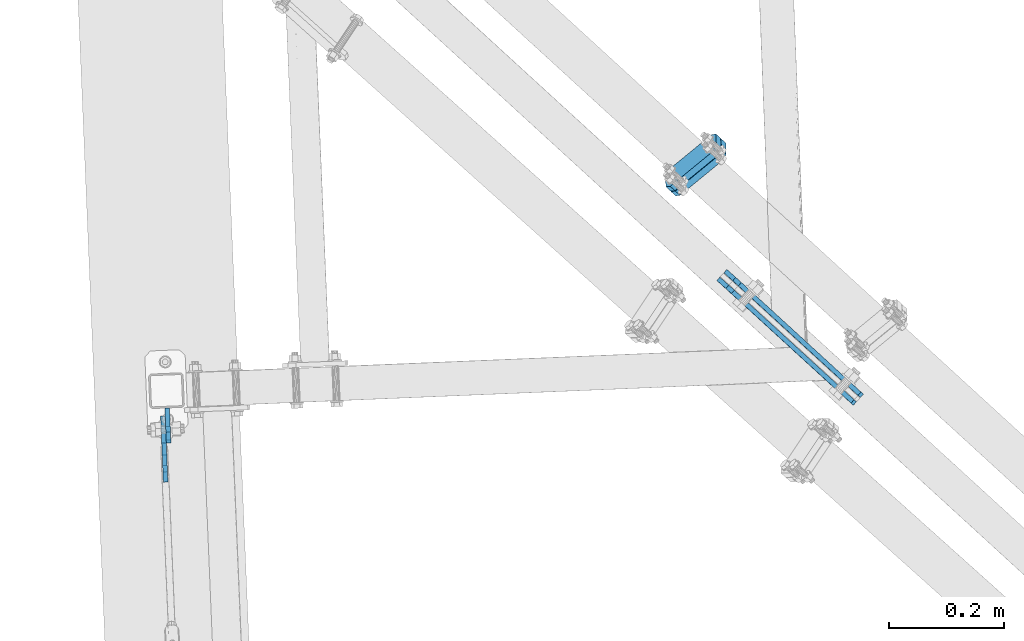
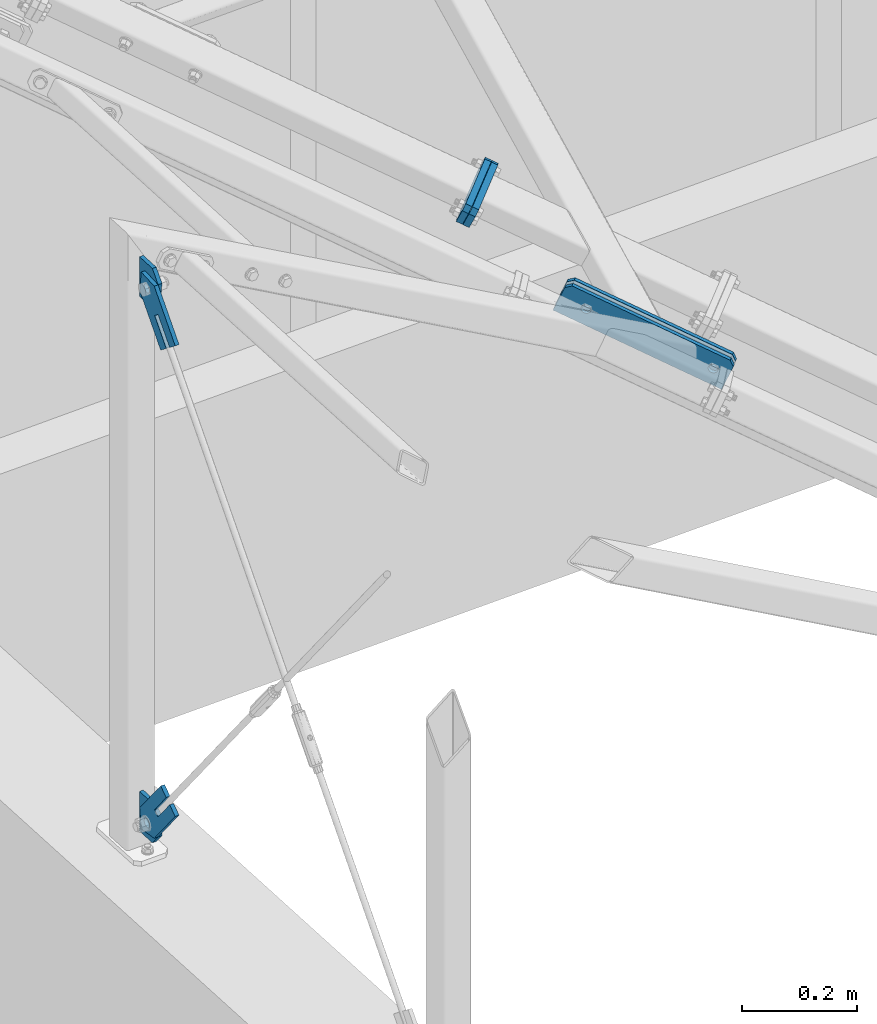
# One storey, part 55 of 288: 8 plates, 36 openings.
"""IFC2X3 building model written with IfcOpenShell, lengths in millimetres."""

from ifc_helpers import new_model, entity, si_unit, converted_unit, point, frame, frame_2d, origin, origin_with_axes, origin_2d_with_axis, place, context, project, spatial, polyline, circle_curve, line_curve, trimmed, segment, composite_curve, circle, outline, extrude, material, layer, layer_set, element, save


model = new_model("IFC2X3")

# Units and contexts
model_context = context("Model", 3, precision=1e-09, world=origin_with_axes())
ifc_project = project(units=[si_unit("LENGTHUNIT", "METRE", prefix="MILLI"), si_unit("AREAUNIT", "SQUARE_METRE"), si_unit("VOLUMEUNIT", "CUBIC_METRE"), converted_unit("PLANEANGLEUNIT", "DEGREE", entity("IfcPlaneAngleMeasure", 0.01745329), si_unit("PLANEANGLEUNIT", "RADIAN"), dimensions=[0, 0, 0, 0, 0, 0, 0])], contexts=[model_context])

# Site, building, storey
site_placement = place(None, origin_with_axes())
site = spatial("IfcSite", under=ifc_project, at=site_placement, Name="Remont ?wietlik?w nad MC w NCPP w Opolu", CompositionType="ELEMENT")
building_placement = place(site_placement, origin_with_axes())
building = spatial("IfcBuilding", under=site, at=building_placement, Name="Konstrukcja 1", CompositionType="ELEMENT")
storey_placement = place(building_placement, origin_with_axes())
storey = spatial("IfcBuildingStorey", under=building, at=storey_placement, Name="Default Storey", CompositionType="ELEMENT", Elevation=0.0)

# Plate, openings
ifc_material = material(Name="S235")
ifc_layer_1 = layer(ifc_material, 8.0)
ifc_layer_set_1 = layer_set([ifc_layer_1], Name="S235")
plate_1_placement = place(None, frame((470.808652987, 14357.629796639, 552.400133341), z_axis=(0.67400264, 0.738719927, -0.003648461), x_axis=(-0.682725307, 0.62478468, 0.378853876)))
plate_1 = element("IfcPlate", 1, at=plate_1_placement, inside=storey, material=ifc_layer_set_1, Name="Plate", ObjectType="Plate", context=model_context, shape_type="SweptSolid", body=[
    extrude(outline(polyline([(9.338628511, 0.0), (333.668192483, 0.0), (333.668192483, 65.0), (9.338628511, 65.0), (9.338628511, 0.0)])), origin_with_axes(), (0.0, 0.0, 1.0), 8.0),
])
opening_1_placement = place(plate_1_placement, frame((0.0, 0.0, -0.01), z_axis=(0.0, 0.0, 1.0), x_axis=(1.0, 0.0, 0.0)))
element("IfcOpeningElement", 2, at=opening_1_placement, cuts=plate_1, ObjectType="Opening", context=model_context, shape_type="SweptSolid", body=[
    extrude(outline(composite_curve([segment(trimmed(line_curve((333.668192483, 65.0), (-1.0, 0.0), 10.0), [point((333.668192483, 65.0))], [point((323.668192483, 65.0))], True, "CARTESIAN"), True, "CONTINUOUS"), segment(trimmed(circle_curve(frame_2d((323.668192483, 55.0), x_axis=(-1.0, 0.0)), 10.0), [point((323.668192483, 65.0))], [point((333.668192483, 55.0))], False, "CARTESIAN"), True, "CONTINUOUS"), segment(trimmed(line_curve((333.668192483, 55.0), (0.0, 1.0), 10.0), [point((333.668192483, 55.0))], [point((333.668192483, 65.0))], True, "CARTESIAN"), True, "CONTINUOUS")], self_intersect=False)), origin(), (0.0, 0.0, 1.0), 8.02),
])
opening_2_placement = place(plate_1_placement, frame((0.0, 0.0, -0.01), z_axis=(0.0, 0.0, 1.0), x_axis=(1.0, 0.0, 0.0)))
element("IfcOpeningElement", 3, at=opening_2_placement, cuts=plate_1, ObjectType="Opening", context=model_context, shape_type="SweptSolid", body=[
    extrude(outline(composite_curve([segment(trimmed(line_curve((9.338628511, 65.0), (0.0, -1.0), 10.0), [point((9.338628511, 65.0))], [point((9.338628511, 55.0))], True, "CARTESIAN"), True, "CONTINUOUS"), segment(trimmed(circle_curve(frame_2d((19.338628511, 55.0), x_axis=(-1.0, 0.0)), 10.0), [point((9.338628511, 55.0))], [point((19.338628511, 65.0))], False, "CARTESIAN"), True, "CONTINUOUS"), segment(trimmed(line_curve((19.338628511, 65.0), (-1.0, 0.0), 10.0), [point((19.338628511, 65.0))], [point((9.338628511, 65.0))], True, "CARTESIAN"), True, "CONTINUOUS")], self_intersect=False)), origin(), (0.0, 0.0, 1.0), 8.02),
])
opening_3_placement = place(plate_1_placement, frame((39.338628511, 32.955059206, 8.5), z_axis=(0.0, 0.0, -1.0), x_axis=(0.0, 1.0, 0.0)))
element("IfcOpeningElement", 4, at=opening_3_placement, cuts=plate_1, ObjectType="Opening", context=model_context, shape_type="SweptSolid", body=[
    extrude(circle(Radius=9.001, at=origin_2d_with_axis()), origin(), (0.0, 0.0, 1.0), 9.0),
])
opening_4_placement = place(plate_1_placement, frame((283.668192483, 32.475001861, 8.5), z_axis=(0.0, 0.0, -1.0), x_axis=(0.0, 1.0, 0.0)))
element("IfcOpeningElement", 5, at=opening_4_placement, cuts=plate_1, ObjectType="Opening", context=model_context, shape_type="SweptSolid", body=[
    extrude(circle(Radius=9.001, at=origin_2d_with_axis()), origin(), (0.0, 0.0, 1.0), 9.0),
])

plate_2_placement = place(None, frame((458.676605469, 14344.332837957, 552.46580564), z_axis=(0.67400264, 0.738719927, -0.003648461), x_axis=(-0.682725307, 0.62478468, 0.378853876)))
plate_2 = element("IfcPlate", 6, at=plate_2_placement, inside=storey, material=ifc_layer_set_1, Name="Plate", ObjectType="Plate", context=model_context, shape_type="SweptSolid", body=[
    extrude(outline(polyline([(9.338628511, 0.0), (333.668192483, 0.0), (333.668192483, 65.0), (9.338628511, 65.0), (9.338628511, 0.0)])), origin_with_axes(), (0.0, 0.0, 1.0), 8.0),
])
opening_5_placement = place(plate_2_placement, frame((0.0, 0.0, -0.01), z_axis=(0.0, 0.0, 1.0), x_axis=(1.0, 0.0, 0.0)))
element("IfcOpeningElement", 7, at=opening_5_placement, cuts=plate_2, ObjectType="Opening", context=model_context, shape_type="SweptSolid", body=[
    extrude(outline(composite_curve([segment(trimmed(line_curve((333.668192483, 65.0), (-1.0, 0.0), 10.0), [point((333.668192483, 65.0))], [point((323.668192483, 65.0))], True, "CARTESIAN"), True, "CONTINUOUS"), segment(trimmed(circle_curve(frame_2d((323.668192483, 55.0), x_axis=(-1.0, 0.0)), 10.0), [point((323.668192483, 65.0))], [point((333.668192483, 55.0))], False, "CARTESIAN"), True, "CONTINUOUS"), segment(trimmed(line_curve((333.668192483, 55.0), (0.0, 1.0), 10.0), [point((333.668192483, 55.0))], [point((333.668192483, 65.0))], True, "CARTESIAN"), True, "CONTINUOUS")], self_intersect=False)), origin(), (0.0, 0.0, 1.0), 8.02),
])
opening_6_placement = place(plate_2_placement, frame((0.0, 0.0, -0.01), z_axis=(0.0, 0.0, 1.0), x_axis=(1.0, 0.0, 0.0)))
element("IfcOpeningElement", 8, at=opening_6_placement, cuts=plate_2, ObjectType="Opening", context=model_context, shape_type="SweptSolid", body=[
    extrude(outline(composite_curve([segment(trimmed(line_curve((9.338628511, 65.0), (0.0, -1.0), 10.0), [point((9.338628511, 65.0))], [point((9.338628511, 55.0))], True, "CARTESIAN"), True, "CONTINUOUS"), segment(trimmed(circle_curve(frame_2d((19.338628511, 55.0), x_axis=(-1.0, 0.0)), 10.0), [point((9.338628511, 55.0))], [point((19.338628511, 65.0))], False, "CARTESIAN"), True, "CONTINUOUS"), segment(trimmed(line_curve((19.338628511, 65.0), (-1.0, 0.0), 10.0), [point((19.338628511, 65.0))], [point((9.338628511, 65.0))], True, "CARTESIAN"), True, "CONTINUOUS")], self_intersect=False)), origin(), (0.0, 0.0, 1.0), 8.02),
])
opening_7_placement = place(plate_2_placement, frame((39.338628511, 32.955059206, 8.5), z_axis=(0.0, 0.0, -1.0), x_axis=(0.0, 1.0, 0.0)))
element("IfcOpeningElement", 9, at=opening_7_placement, cuts=plate_2, ObjectType="Opening", context=model_context, shape_type="SweptSolid", body=[
    extrude(circle(Radius=9.001, at=origin_2d_with_axis()), origin(), (0.0, 0.0, 1.0), 9.0),
])
opening_8_placement = place(plate_2_placement, frame((283.668192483, 32.475001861, 8.5), z_axis=(0.0, 0.0, -1.0), x_axis=(0.0, 1.0, 0.0)))
element("IfcOpeningElement", 10, at=opening_8_placement, cuts=plate_2, ObjectType="Opening", context=model_context, shape_type="SweptSolid", body=[
    extrude(circle(Radius=9.001, at=origin_2d_with_axis()), origin(), (0.0, 0.0, 1.0), 9.0),
])

ifc_layer_2 = layer(ifc_material, 12.0)
ifc_layer_set_2 = layer_set([ifc_layer_2], Name="S235")
plate_3_placement = place(None, frame((238.585710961, 14774.471554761, 865.912405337), z_axis=(-0.683038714, 0.625065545, 0.37782427), x_axis=(-0.019762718, 0.501290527, -0.865053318)))
plate_3 = element("IfcPlate", 11, at=plate_3_placement, inside=storey, material=ifc_layer_set_2, Name="Endplate#1", ObjectType="Endplate#1", context=model_context, shape_type="SweptSolid", body=[
    extrude(outline(polyline([(0.0, 0.0), (60.0, 0.0), (60.0, 120.0), (0.0, 120.0), (0.0, 0.0)])), origin_with_axes(), (0.0, 0.0, 1.0), 12.0),
])
opening_9_placement = place(plate_3_placement, frame((45.0, 60.0, 12.5), z_axis=(0.0, 0.0, -1.0), x_axis=(1.0, 0.0, 0.0)))
element("IfcOpeningElement", 12, at=opening_9_placement, cuts=plate_3, ObjectType="Opening", context=model_context, shape_type="SweptSolid", body=[
    extrude(circle(Radius=6.001, at=frame_2d((0.0, 45.0), x_axis=(1.0, 0.0))), origin(), (0.0, 0.0, 1.0), 13.0),
])
opening_10_placement = place(plate_3_placement, frame((45.0, 60.0, 12.5), z_axis=(0.0, 0.0, -1.0), x_axis=(1.0, 0.0, 0.0)))
element("IfcOpeningElement", 13, at=opening_10_placement, cuts=plate_3, ObjectType="Opening", context=model_context, shape_type="SweptSolid", body=[
    extrude(circle(Radius=6.001, at=frame_2d((0.0, -45.0), x_axis=(1.0, 0.0))), origin(), (0.0, 0.0, 1.0), 13.0),
])
opening_11_placement = place(plate_3_placement, frame((15.0, 60.0, 12.5), z_axis=(0.0, 0.0, -1.0), x_axis=(1.0, 0.0, 0.0)))
element("IfcOpeningElement", 14, at=opening_11_placement, cuts=plate_3, ObjectType="Opening", context=model_context, shape_type="SweptSolid", body=[
    extrude(circle(Radius=6.001, at=frame_2d((0.0, 45.0), x_axis=(1.0, 0.0))), origin(), (0.0, 0.0, 1.0), 13.0),
])
opening_12_placement = place(plate_3_placement, frame((15.0, 60.0, 12.5), z_axis=(0.0, 0.0, -1.0), x_axis=(1.0, 0.0, 0.0)))
element("IfcOpeningElement", 15, at=opening_12_placement, cuts=plate_3, ObjectType="Opening", context=model_context, shape_type="SweptSolid", body=[
    extrude(circle(Radius=6.001, at=frame_2d((0.0, -45.0), x_axis=(1.0, 0.0))), origin(), (0.0, 0.0, 1.0), 13.0),
])
opening_13_placement = place(plate_3_placement, frame((0.0, 0.0, -0.01), z_axis=(0.0, 0.0, 1.0), x_axis=(1.0, 0.0, 0.0)))
element("IfcOpeningElement", 16, at=opening_13_placement, cuts=plate_3, ObjectType="Opening", context=model_context, shape_type="SweptSolid", body=[
    extrude(outline(composite_curve([segment(trimmed(line_curve((0.0, 0.0), (1.0, 0.0), 10.0), [point((0.0, 0.0))], [point((10.0, 0.0))], True, "CARTESIAN"), True, "CONTINUOUS"), segment(trimmed(circle_curve(frame_2d((10.0, 10.0), x_axis=(-1.0, 0.0)), 10.0), [point((10.0, 0.0))], [point((0.0, 10.0))], False, "CARTESIAN"), True, "CONTINUOUS"), segment(trimmed(line_curve((0.0, 10.0), (0.0, -1.0), 10.0), [point((0.0, 10.0))], [point((0.0, 0.0))], True, "CARTESIAN"), True, "CONTINUOUS")], self_intersect=False)), origin(), (0.0, 0.0, 1.0), 12.02),
])
opening_14_placement = place(plate_3_placement, frame((0.0, 0.0, -0.01), z_axis=(0.0, 0.0, 1.0), x_axis=(1.0, 0.0, 0.0)))
element("IfcOpeningElement", 17, at=opening_14_placement, cuts=plate_3, ObjectType="Opening", context=model_context, shape_type="SweptSolid", body=[
    extrude(outline(composite_curve([segment(trimmed(line_curve((60.0, 0.0), (0.0, 1.0), 10.0), [point((60.0, 0.0))], [point((60.0, 10.0))], True, "CARTESIAN"), True, "CONTINUOUS"), segment(trimmed(circle_curve(frame_2d((50.0, 10.0), x_axis=(-1.0, 0.0)), 10.0), [point((60.0, 10.0))], [point((50.0, 0.0))], False, "CARTESIAN"), True, "CONTINUOUS"), segment(trimmed(line_curve((50.0, 0.0), (1.0, 0.0), 10.0), [point((50.0, 0.0))], [point((60.0, 0.0))], True, "CARTESIAN"), True, "CONTINUOUS")], self_intersect=False)), origin(), (0.0, 0.0, 1.0), 12.02),
])
opening_15_placement = place(plate_3_placement, frame((0.0, 0.0, -0.01), z_axis=(0.0, 0.0, 1.0), x_axis=(1.0, 0.0, 0.0)))
element("IfcOpeningElement", 18, at=opening_15_placement, cuts=plate_3, ObjectType="Opening", context=model_context, shape_type="SweptSolid", body=[
    extrude(outline(composite_curve([segment(trimmed(line_curve((0.0, 120.0), (0.0, -1.0), 10.0), [point((0.0, 120.0))], [point((0.0, 110.0))], True, "CARTESIAN"), True, "CONTINUOUS"), segment(trimmed(circle_curve(frame_2d((10.0, 110.0), x_axis=(-1.0, 0.0)), 10.0), [point((0.0, 110.0))], [point((10.0, 120.0))], False, "CARTESIAN"), True, "CONTINUOUS"), segment(trimmed(line_curve((10.0, 120.0), (-1.0, 0.0), 10.0), [point((10.0, 120.0))], [point((0.0, 120.0))], True, "CARTESIAN"), True, "CONTINUOUS")], self_intersect=False)), origin(), (0.0, 0.0, 1.0), 12.02),
])
opening_16_placement = place(plate_3_placement, frame((0.0, 0.0, -0.01), z_axis=(0.0, 0.0, 1.0), x_axis=(1.0, 0.0, 0.0)))
element("IfcOpeningElement", 19, at=opening_16_placement, cuts=plate_3, ObjectType="Opening", context=model_context, shape_type="SweptSolid", body=[
    extrude(outline(composite_curve([segment(trimmed(line_curve((60.0, 120.0), (-1.0, 0.0), 10.0), [point((60.0, 120.0))], [point((50.0, 120.0))], True, "CARTESIAN"), True, "CONTINUOUS"), segment(trimmed(circle_curve(frame_2d((50.0, 110.0), x_axis=(-1.0, 0.0)), 10.0), [point((50.0, 120.0))], [point((60.0, 110.0))], False, "CARTESIAN"), True, "CONTINUOUS"), segment(trimmed(line_curve((60.0, 110.0), (0.0, 1.0), 10.0), [point((60.0, 110.0))], [point((60.0, 120.0))], True, "CARTESIAN"), True, "CONTINUOUS")], self_intersect=False)), origin(), (0.0, 0.0, 1.0), 12.02),
])

plate_4_placement = place(None, frame((247.465214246, 14766.345702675, 861.000689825), z_axis=(-0.683038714, 0.625065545, 0.37782427), x_axis=(-0.019762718, 0.501290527, -0.865053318)))
plate_4 = element("IfcPlate", 20, at=plate_4_placement, inside=storey, material=ifc_layer_set_2, Name="Endplate#2", ObjectType="Endplate#2", context=model_context, shape_type="SweptSolid", body=[
    extrude(outline(polyline([(0.0, 0.0), (60.0, 0.0), (60.0, 120.0), (0.0, 120.0), (0.0, 0.0)])), origin_with_axes(), (0.0, 0.0, 1.0), 12.0),
])
opening_17_placement = place(plate_4_placement, frame((15.0, 60.0, 12.5), z_axis=(0.0, 0.0, -1.0), x_axis=(1.0, 0.0, 0.0)))
element("IfcOpeningElement", 21, at=opening_17_placement, cuts=plate_4, ObjectType="Opening", context=model_context, shape_type="SweptSolid", body=[
    extrude(circle(Radius=6.001, at=frame_2d((0.0, 45.0), x_axis=(1.0, 0.0))), origin(), (0.0, 0.0, 1.0), 13.0),
])
opening_18_placement = place(plate_4_placement, frame((15.0, 60.0, 12.5), z_axis=(0.0, 0.0, -1.0), x_axis=(1.0, 0.0, 0.0)))
element("IfcOpeningElement", 22, at=opening_18_placement, cuts=plate_4, ObjectType="Opening", context=model_context, shape_type="SweptSolid", body=[
    extrude(circle(Radius=6.001, at=frame_2d((0.0, -45.0), x_axis=(1.0, 0.0))), origin(), (0.0, 0.0, 1.0), 13.0),
])
opening_19_placement = place(plate_4_placement, frame((45.0, 60.0, 12.5), z_axis=(0.0, 0.0, -1.0), x_axis=(1.0, 0.0, 0.0)))
element("IfcOpeningElement", 23, at=opening_19_placement, cuts=plate_4, ObjectType="Opening", context=model_context, shape_type="SweptSolid", body=[
    extrude(circle(Radius=6.001, at=frame_2d((0.0, 45.0), x_axis=(1.0, 0.0))), origin(), (0.0, 0.0, 1.0), 13.0),
])
opening_20_placement = place(plate_4_placement, frame((45.0, 60.0, 12.5), z_axis=(0.0, 0.0, -1.0), x_axis=(1.0, 0.0, 0.0)))
element("IfcOpeningElement", 24, at=opening_20_placement, cuts=plate_4, ObjectType="Opening", context=model_context, shape_type="SweptSolid", body=[
    extrude(circle(Radius=6.001, at=frame_2d((0.0, -45.0), x_axis=(1.0, 0.0))), origin(), (0.0, 0.0, 1.0), 13.0),
])
opening_21_placement = place(plate_4_placement, frame((0.0, 0.0, -0.01), z_axis=(0.0, 0.0, 1.0), x_axis=(1.0, 0.0, 0.0)))
element("IfcOpeningElement", 25, at=opening_21_placement, cuts=plate_4, ObjectType="Opening", context=model_context, shape_type="SweptSolid", body=[
    extrude(outline(composite_curve([segment(trimmed(line_curve((0.0, 0.0), (1.0, 0.0), 10.0), [point((0.0, 0.0))], [point((10.0, 0.0))], True, "CARTESIAN"), True, "CONTINUOUS"), segment(trimmed(circle_curve(frame_2d((10.0, 10.0), x_axis=(-1.0, 0.0)), 10.0), [point((10.0, 0.0))], [point((0.0, 10.0))], False, "CARTESIAN"), True, "CONTINUOUS"), segment(trimmed(line_curve((0.0, 10.0), (0.0, -1.0), 10.0), [point((0.0, 10.0))], [point((0.0, 0.0))], True, "CARTESIAN"), True, "CONTINUOUS")], self_intersect=False)), origin(), (0.0, 0.0, 1.0), 12.02),
])
opening_22_placement = place(plate_4_placement, frame((0.0, 0.0, -0.01), z_axis=(0.0, 0.0, 1.0), x_axis=(1.0, 0.0, 0.0)))
element("IfcOpeningElement", 26, at=opening_22_placement, cuts=plate_4, ObjectType="Opening", context=model_context, shape_type="SweptSolid", body=[
    extrude(outline(composite_curve([segment(trimmed(line_curve((60.0, 0.0), (0.0, 1.0), 10.0), [point((60.0, 0.0))], [point((60.0, 10.0))], True, "CARTESIAN"), True, "CONTINUOUS"), segment(trimmed(circle_curve(frame_2d((50.0, 10.0), x_axis=(-1.0, 0.0)), 10.0), [point((60.0, 10.0))], [point((50.0, 0.0))], False, "CARTESIAN"), True, "CONTINUOUS"), segment(trimmed(line_curve((50.0, 0.0), (1.0, 0.0), 10.0), [point((50.0, 0.0))], [point((60.0, 0.0))], True, "CARTESIAN"), True, "CONTINUOUS")], self_intersect=False)), origin(), (0.0, 0.0, 1.0), 12.02),
])
opening_23_placement = place(plate_4_placement, frame((0.0, 0.0, -0.01), z_axis=(0.0, 0.0, 1.0), x_axis=(1.0, 0.0, 0.0)))
element("IfcOpeningElement", 27, at=opening_23_placement, cuts=plate_4, ObjectType="Opening", context=model_context, shape_type="SweptSolid", body=[
    extrude(outline(composite_curve([segment(trimmed(line_curve((0.0, 120.0), (0.0, -1.0), 10.0), [point((0.0, 120.0))], [point((0.0, 110.0))], True, "CARTESIAN"), True, "CONTINUOUS"), segment(trimmed(circle_curve(frame_2d((10.0, 110.0), x_axis=(-1.0, 0.0)), 10.0), [point((0.0, 110.0))], [point((10.0, 120.0))], False, "CARTESIAN"), True, "CONTINUOUS"), segment(trimmed(line_curve((10.0, 120.0), (-1.0, 0.0), 10.0), [point((10.0, 120.0))], [point((0.0, 120.0))], True, "CARTESIAN"), True, "CONTINUOUS")], self_intersect=False)), origin(), (0.0, 0.0, 1.0), 12.02),
])
opening_24_placement = place(plate_4_placement, frame((0.0, 0.0, -0.01), z_axis=(0.0, 0.0, 1.0), x_axis=(1.0, 0.0, 0.0)))
element("IfcOpeningElement", 28, at=opening_24_placement, cuts=plate_4, ObjectType="Opening", context=model_context, shape_type="SweptSolid", body=[
    extrude(outline(composite_curve([segment(trimmed(line_curve((60.0, 120.0), (-1.0, 0.0), 10.0), [point((60.0, 120.0))], [point((50.0, 120.0))], True, "CARTESIAN"), True, "CONTINUOUS"), segment(trimmed(circle_curve(frame_2d((50.0, 110.0), x_axis=(-1.0, 0.0)), 10.0), [point((50.0, 120.0))], [point((60.0, 110.0))], False, "CARTESIAN"), True, "CONTINUOUS"), segment(trimmed(line_curve((60.0, 110.0), (0.0, 1.0), 10.0), [point((60.0, 110.0))], [point((60.0, 120.0))], True, "CARTESIAN"), True, "CONTINUOUS")], self_intersect=False)), origin(), (0.0, 0.0, 1.0), 12.02),
])

plate_5_placement = place(None, frame((-729.482199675, 14202.594278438, 1151.725635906), z_axis=(0.999131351, 0.041671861, 0.0), x_axis=(-0.032761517, 0.785495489, -0.617999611)))
plate_5 = element("IfcPlate", 29, at=plate_5_placement, inside=storey, material=ifc_layer_set_1, Name="Tab_Plate#2", ObjectType="Tab_Plate#2", context=model_context, shape_type="SweptSolid", body=[
    extrude(outline(polyline([(0.0, 0.0), (60.0, 0.0), (60.0, 140.0), (0.0, 140.0), (0.0, 0.0)])), origin_with_axes(), (0.0, 0.0, 1.0), 8.0),
])
opening_25_placement = place(plate_5_placement, frame((0.0, 0.0, -0.01), z_axis=(0.0, 0.0, 1.0), x_axis=(1.0, 0.0, 0.0)))
element("IfcOpeningElement", 30, at=opening_25_placement, cuts=plate_5, ObjectType="Opening", context=model_context, shape_type="SweptSolid", body=[
    extrude(outline(composite_curve([segment(trimmed(line_curve((60.0, 140.0), (-1.0, 0.0), 30.0), [point((60.0, 140.0))], [point((30.0, 140.0))], True, "CARTESIAN"), True, "CONTINUOUS"), segment(trimmed(circle_curve(frame_2d((30.0, 110.0), x_axis=(-1.0, 0.0)), 30.0), [point((30.0, 140.0))], [point((60.0, 110.0))], False, "CARTESIAN"), True, "CONTINUOUS"), segment(trimmed(line_curve((60.0, 110.0), (0.0, 1.0), 30.0), [point((60.0, 110.0))], [point((60.0, 140.0))], True, "CARTESIAN"), True, "CONTINUOUS")], self_intersect=False)), origin(), (0.0, 0.0, 1.0), 8.02),
])
opening_26_placement = place(plate_5_placement, frame((0.0, 0.0, -0.01), z_axis=(0.0, 0.0, 1.0), x_axis=(1.0, 0.0, 0.0)))
element("IfcOpeningElement", 31, at=opening_26_placement, cuts=plate_5, ObjectType="Opening", context=model_context, shape_type="SweptSolid", body=[
    extrude(outline(composite_curve([segment(trimmed(line_curve((0.0, 140.0), (0.0, -1.0), 30.0), [point((0.0, 140.0))], [point((0.0, 110.0))], True, "CARTESIAN"), True, "CONTINUOUS"), segment(trimmed(circle_curve(frame_2d((30.0, 110.0), x_axis=(-1.0, 0.0)), 30.0), [point((0.0, 110.0))], [point((30.0, 140.0))], False, "CARTESIAN"), True, "CONTINUOUS"), segment(trimmed(line_curve((30.0, 140.0), (-1.0, 0.0), 30.0), [point((30.0, 140.0))], [point((0.0, 140.0))], True, "CARTESIAN"), True, "CONTINUOUS")], self_intersect=False)), origin(), (0.0, 0.0, 1.0), 8.02),
])
opening_27_placement = place(plate_5_placement, frame((0.0, 0.0, 8.1), z_axis=(0.0, 0.0, -1.0), x_axis=(-0.786178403, -0.617999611, 0.0)))
element("IfcOpeningElement", 32, at=opening_27_placement, cuts=plate_5, ObjectType="Opening", context=model_context, shape_type="SweptSolid", body=[
    extrude(outline(polyline([(-55.779911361, 33.744295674), (-66.787981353, 25.091065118), (-29.088769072, -22.867389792), (-18.08069908, -14.214159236), (-55.779911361, 33.744295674)])), origin(), (0.0, 0.0, 1.0), 8.2),
])
opening_28_placement = place(plate_5_placement, frame((30.0, 110.0, 8.5), z_axis=(0.0, 0.0, -1.0), x_axis=(0.0, -1.0, 0.0)))
element("IfcOpeningElement", 33, at=opening_28_placement, cuts=plate_5, ObjectType="Opening", context=model_context, shape_type="SweptSolid", body=[
    extrude(circle(Radius=9.001, at=origin_2d_with_axis()), origin(), (0.0, 0.0, 1.0), 9.0),
])

plate_6_placement = place(None, frame((-717.522044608, 14299.787780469, 1177.539931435), z_axis=(-0.999131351, -0.041671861, 0.0), x_axis=(0.032761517, -0.785495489, 0.617999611)))
plate_6 = element("IfcPlate", 34, at=plate_6_placement, inside=storey, material=ifc_layer_set_1, Name="Gusset#2", ObjectType="Gusset#2", context=model_context, shape_type="SweptSolid", body=[
    extrude(outline(polyline([(0.0, 0.0), (60.0, 0.0), (60.0, 60.0), (26.881967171, 86.033443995), (-25.18492082, 19.797378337), (0.0, 0.0)])), origin_with_axes(), (0.0, 0.0, 1.0), 8.0),
])
opening_29_placement = place(plate_6_placement, frame((30.0, 30.0, -0.5), z_axis=(0.0, 0.0, 1.0), x_axis=(0.0, -1.0, 0.0)))
element("IfcOpeningElement", 35, at=opening_29_placement, cuts=plate_6, ObjectType="Opening", context=model_context, shape_type="SweptSolid", body=[
    extrude(circle(Radius=9.001, at=origin_2d_with_axis()), origin(), (0.0, 0.0, 1.0), 9.0),
])
opening_30_placement = place(plate_6_placement, frame((0.0, 0.0, -0.01), z_axis=(0.0, 0.0, 1.0), x_axis=(1.0, 0.0, 0.0)))
element("IfcOpeningElement", 36, at=opening_30_placement, cuts=plate_6, ObjectType="Opening", context=model_context, shape_type="SweptSolid", body=[
    extrude(outline(composite_curve([segment(trimmed(line_curve((60.0, 0.0), (0.0, 1.0), 30.0), [point((60.0, 0.0))], [point((60.0, 30.0))], True, "CARTESIAN"), True, "CONTINUOUS"), segment(trimmed(circle_curve(frame_2d((30.0, 30.0), x_axis=(-1.0, 0.0)), 30.0), [point((60.0, 30.0))], [point((30.0, 0.0))], False, "CARTESIAN"), True, "CONTINUOUS"), segment(trimmed(line_curve((30.0, 0.0), (1.0, 0.0), 30.0), [point((30.0, 0.0))], [point((60.0, 0.0))], True, "CARTESIAN"), True, "CONTINUOUS")], self_intersect=False)), origin(), (0.0, 0.0, 1.0), 8.02),
])

plate_7_placement = place(None, frame((-721.489148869, 14202.92765332, 153.27436434), z_axis=(-0.999131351, -0.041671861, 0.0), x_axis=(-0.032761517, 0.785495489, 0.617999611)))
plate_7 = element("IfcPlate", 37, at=plate_7_placement, inside=storey, material=ifc_layer_set_1, Name="Tab_Plate#1", ObjectType="Tab_Plate#1", context=model_context, shape_type="SweptSolid", body=[
    extrude(outline(polyline([(0.0, 0.0), (60.0, 0.0), (60.0, 140.0), (0.0, 140.0), (0.0, 0.0)])), origin_with_axes(), (0.0, 0.0, 1.0), 8.0),
])
opening_31_placement = place(plate_7_placement, frame((0.0, 0.0, -0.01), z_axis=(0.0, 0.0, 1.0), x_axis=(1.0, 0.0, 0.0)))
element("IfcOpeningElement", 38, at=opening_31_placement, cuts=plate_7, ObjectType="Opening", context=model_context, shape_type="SweptSolid", body=[
    extrude(outline(composite_curve([segment(trimmed(line_curve((60.0, 140.0), (-1.0, 0.0), 30.0), [point((60.0, 140.0))], [point((30.0, 140.0))], True, "CARTESIAN"), True, "CONTINUOUS"), segment(trimmed(circle_curve(frame_2d((30.0, 110.0), x_axis=(-1.0, 0.0)), 30.0), [point((30.0, 140.0))], [point((60.0, 110.0))], False, "CARTESIAN"), True, "CONTINUOUS"), segment(trimmed(line_curve((60.0, 110.0), (0.0, 1.0), 30.0), [point((60.0, 110.0))], [point((60.0, 140.0))], True, "CARTESIAN"), True, "CONTINUOUS")], self_intersect=False)), origin(), (0.0, 0.0, 1.0), 8.02),
])
opening_32_placement = place(plate_7_placement, frame((0.0, 0.0, -0.01), z_axis=(0.0, 0.0, 1.0), x_axis=(1.0, 0.0, 0.0)))
element("IfcOpeningElement", 39, at=opening_32_placement, cuts=plate_7, ObjectType="Opening", context=model_context, shape_type="SweptSolid", body=[
    extrude(outline(composite_curve([segment(trimmed(line_curve((0.0, 140.0), (0.0, -1.0), 30.0), [point((0.0, 140.0))], [point((0.0, 110.0))], True, "CARTESIAN"), True, "CONTINUOUS"), segment(trimmed(circle_curve(frame_2d((30.0, 110.0), x_axis=(-1.0, 0.0)), 30.0), [point((0.0, 110.0))], [point((30.0, 140.0))], False, "CARTESIAN"), True, "CONTINUOUS"), segment(trimmed(line_curve((30.0, 140.0), (-1.0, 0.0), 30.0), [point((30.0, 140.0))], [point((0.0, 140.0))], True, "CARTESIAN"), True, "CONTINUOUS")], self_intersect=False)), origin(), (0.0, 0.0, 1.0), 8.02),
])
opening_33_placement = place(plate_7_placement, frame((0.0, 0.0, 8.1), z_axis=(0.0, 0.0, -1.0), x_axis=(0.786178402, 0.617999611, 0.0)))
element("IfcOpeningElement", 40, at=opening_33_placement, cuts=plate_7, ObjectType="Opening", context=model_context, shape_type="SweptSolid", body=[
    extrude(outline(polyline([(55.779911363, -33.74429567), (66.787981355, -25.091065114), (29.08876907, 22.867389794), (18.080699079, 14.214159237), (55.779911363, -33.74429567)])), origin(), (0.0, 0.0, 1.0), 8.2),
])
opening_34_placement = place(plate_7_placement, frame((30.0, 110.0, 8.5), z_axis=(0.0, 0.0, -1.0), x_axis=(0.0, -1.0, 0.0)))
element("IfcOpeningElement", 41, at=opening_34_placement, cuts=plate_7, ObjectType="Opening", context=model_context, shape_type="SweptSolid", body=[
    extrude(circle(Radius=9.001, at=origin_2d_with_axis()), origin(), (0.0, 0.0, 1.0), 9.0),
])

plate_8_placement = place(None, frame((-725.515095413, 14299.454405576, 127.460068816), z_axis=(0.999131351, 0.041671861, 0.0), x_axis=(0.032761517, -0.785495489, -0.617999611)))
plate_8 = element("IfcPlate", 42, at=plate_8_placement, inside=storey, material=ifc_layer_set_1, Name="Gusset#1", ObjectType="Gusset#1", context=model_context, shape_type="SweptSolid", body=[
    extrude(outline(polyline([(0.0, 0.0), (60.0, 0.0), (60.0, 60.0), (26.881967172, 86.033443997), (-25.184920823, 19.797378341), (0.0, 0.0)])), origin_with_axes(), (0.0, 0.0, 1.0), 8.0),
])
opening_35_placement = place(plate_8_placement, frame((30.0, 30.0, -0.5), z_axis=(0.0, 0.0, 1.0), x_axis=(0.0, -1.0, 0.0)))
element("IfcOpeningElement", 43, at=opening_35_placement, cuts=plate_8, ObjectType="Opening", context=model_context, shape_type="SweptSolid", body=[
    extrude(circle(Radius=9.001, at=origin_2d_with_axis()), origin(), (0.0, 0.0, 1.0), 9.0),
])
opening_36_placement = place(plate_8_placement, frame((0.0, 0.0, -0.01), z_axis=(0.0, 0.0, 1.0), x_axis=(1.0, 0.0, 0.0)))
element("IfcOpeningElement", 44, at=opening_36_placement, cuts=plate_8, ObjectType="Opening", context=model_context, shape_type="SweptSolid", body=[
    extrude(outline(composite_curve([segment(trimmed(line_curve((60.0, 0.0), (0.0, 1.0), 30.0), [point((60.0, 0.0))], [point((60.0, 30.0))], True, "CARTESIAN"), True, "CONTINUOUS"), segment(trimmed(circle_curve(frame_2d((30.0, 30.0), x_axis=(-1.0, 0.0)), 30.0), [point((60.0, 30.0))], [point((30.0, 0.0))], False, "CARTESIAN"), True, "CONTINUOUS"), segment(trimmed(line_curve((30.0, 0.0), (1.0, 0.0), 30.0), [point((30.0, 0.0))], [point((60.0, 0.0))], True, "CARTESIAN"), True, "CONTINUOUS")], self_intersect=False)), origin(), (0.0, 0.0, 1.0), 8.02),
])

save(model, "model.ifc")
